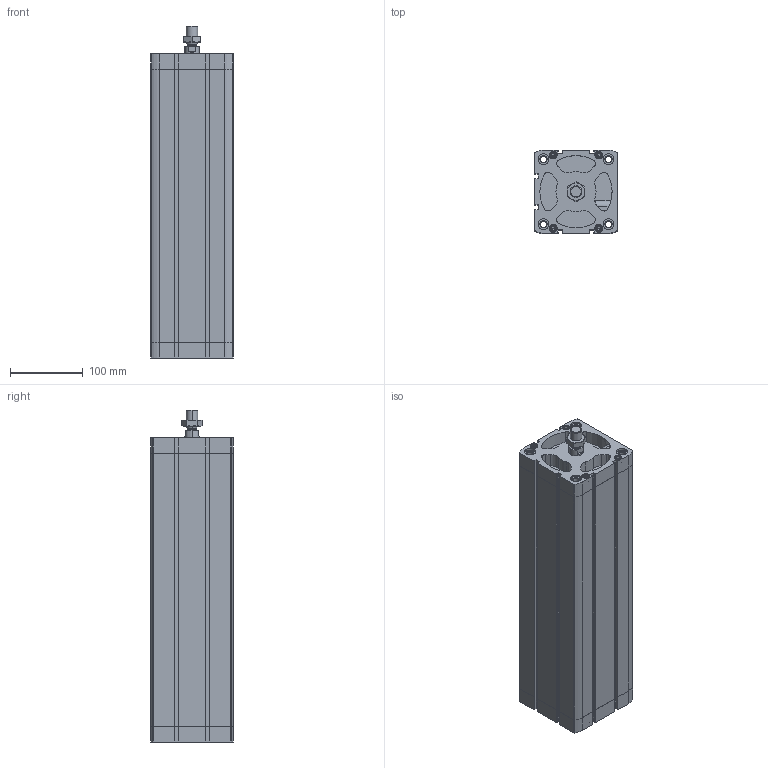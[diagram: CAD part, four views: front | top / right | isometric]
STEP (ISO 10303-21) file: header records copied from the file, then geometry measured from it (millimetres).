
FILE_DESCRIPTION (( 'STEP AP203' ), '1' );
FILE_NAME ('CCN100-350M.STEP', '2020-06-05T18:09:54', ( '' ), ( '' ), 'SwSTEP 2.0', 'SolidWorks 2019', '' );
FILE_SCHEMA (( 'CONFIG_CONTROL_DESIGN' ));
Length unit declared in the file: millimetre
Products named in the file (1): CCN100-350M
Bounding box: 113.5 x 113.5 x 454.8 mm (x, y, z)
Volume: 2351605.3 mm3; surface area: 492787.8 mm2
Topology: 3 solids, 3 shells, 648 faces, 1673 edges, 1068 vertices
Faces by surface type: plane 292, cylinder 272, cone 80, torus 4
Entity records: 21246 total; most frequent: CARTESIAN_POINT 4984, DIRECTION 3541, ORIENTED_EDGE 3314, EDGE_CURVE 1657, AXIS2_PLACEMENT_3D 1319, VERTEX_POINT 1068, VECTOR 903, LINE 903
